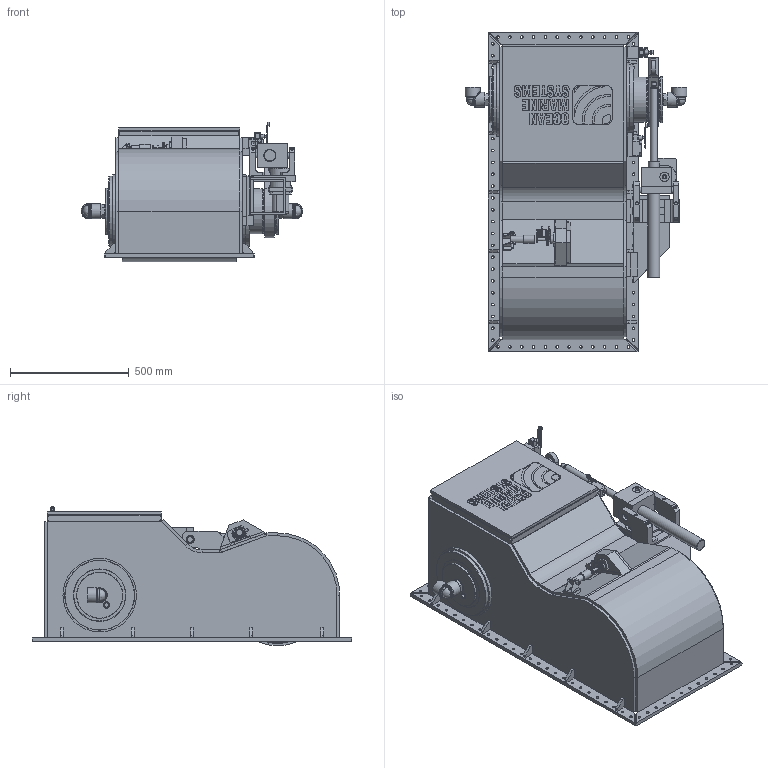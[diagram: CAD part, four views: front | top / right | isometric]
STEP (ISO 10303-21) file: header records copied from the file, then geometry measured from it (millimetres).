
FILE_DESCRIPTION(/* description */ (''),/* implementation_level */ '2;1');
FILE_NAME(/* name */ 'Q:\THRUSTERS\THRUSTER SALES & SUPPORT DOCS\THRUSTER Sales\H-S\H-0400-S\H-0400-S Retracted.stp',/* time_stamp */ '2021-01-26T11:50:26+00:00',/* author */ ('Barney.Webborn'),/* organization */ (''),/* preprocessor_version */ 'ST-DEVELOPER v17.2',/* originating_system */ 'Autodesk Inventor 2019',/* authorisation */ '');
FILE_SCHEMA (('AUTOMOTIVE_DESIGN { 1 0 10303 214 3 1 1 }'));
Length unit declared in the file: millimetre
Products named in the file (1): H-0400-S_Shrinkwrap_1
Bounding box: 936 x 1347 x 588.44 mm (x, y, z)
Volume: 74894119.3 mm3; surface area: 10994448.4 mm2
Topology: 15 solids, 18 shells, 1890 faces, 5034 edges, 3275 vertices
Faces by surface type: plane 1088, cylinder 435, cone 139, bspline 138, torus 66, sphere 24
Full cylindrical faces by diameter (mm): 3 x6, 7.2 x2, 8 x2, 8.38 x2, 10 x2, 11 x76, 11.8 x1, 11.999 x3, 12 x2, 14.95 x2, 15 x3, 15.6 x1, 16 x2, 16.467 x1, 17 x3, 17.5 x2, 18.376 x2, 18.75 x2, 19 x2, 20 x3, 21.65 x1, 23.53 x1, 23.55 x1, 24.25 x1, 25 x2, 25.4 x2, 26 x1, 26.25 x1, 26.7 x1, 28 x1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
Entity records: 66135 total; most frequent: CARTESIAN_POINT 16779, ORIENTED_EDGE 9966, DIRECTION 9438, EDGE_CURVE 4989, VERTEX_POINT 3275, AXIS2_PLACEMENT_3D 3180, LINE 3078, VECTOR 3078
